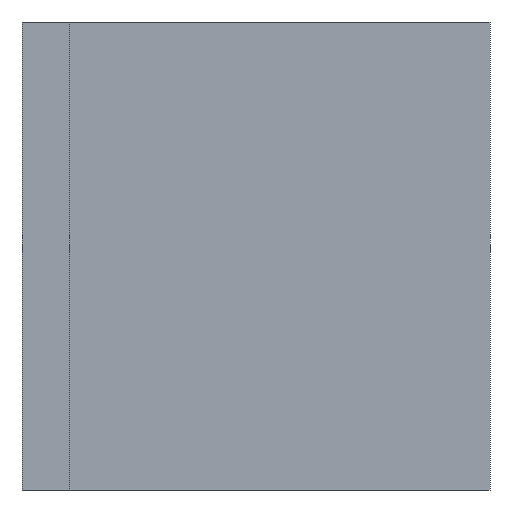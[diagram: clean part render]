
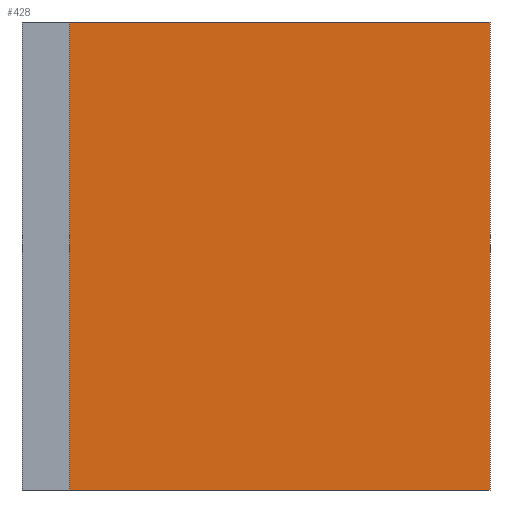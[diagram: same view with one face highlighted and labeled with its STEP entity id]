
A CAD part, front view. The second image highlights one B-rep face of the part: STEP entity #428.
In plain terms, the highlighted planar face has unit normal (0, -1, 0).
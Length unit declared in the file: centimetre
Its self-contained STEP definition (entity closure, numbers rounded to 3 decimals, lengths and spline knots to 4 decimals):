
#7 = VERTEX_POINT ( 'NONE', #198 ) ;
#14 = VERTEX_POINT ( 'NONE', #168 ) ;
#15 = AXIS2_PLACEMENT_3D ( 'NONE', #436, #159, #60 ) ;
#20 = LINE ( 'NONE', #68, #123 ) ;
#21 = ORIENTED_EDGE ( 'NONE', *, *, #22, .F. ) ;
#22 = EDGE_CURVE ( 'NONE', #26, #7, #264, .T. ) ;
#26 = VERTEX_POINT ( 'NONE', #137 ) ;
#60 = DIRECTION ( 'NONE',  ( 0., 0., 1. ) ) ;
#68 = CARTESIAN_POINT ( 'NONE',  ( 102.2926, 0., 0. ) ) ;
#87 = FACE_OUTER_BOUND ( 'NONE', #182, .T. ) ;
#93 = EDGE_CURVE ( 'NONE', #154, #14, #20, .T. ) ;
#94 = DIRECTION ( 'NONE',  ( 0., 0., 1. ) ) ;
#95 = CARTESIAN_POINT ( 'NONE',  ( 0., 0., 0. ) ) ;
#101 = DIRECTION ( 'NONE',  ( 0., 0., -1. ) ) ;
#123 = VECTOR ( 'NONE', #94, 100. ) ;
#130 = DIRECTION ( 'NONE',  ( 1., 0., 0. ) ) ;
#137 = CARTESIAN_POINT ( 'NONE',  ( 1000., 0., 1000. ) ) ;
#141 = ORIENTED_EDGE ( 'NONE', *, *, #384, .F. ) ;
#154 = VERTEX_POINT ( 'NONE', #284 ) ;
#159 = DIRECTION ( 'NONE',  ( 0., 1., 0. ) ) ;
#168 = CARTESIAN_POINT ( 'NONE',  ( 102.2926, 0., 1000. ) ) ;
#182 = EDGE_LOOP ( 'NONE', ( #141, #288, #401, #21 ) ) ;
#194 = DIRECTION ( 'NONE',  ( 1., 0., 0. ) ) ;
#198 = CARTESIAN_POINT ( 'NONE',  ( 1000., 0., 0. ) ) ;
#216 = PLANE ( 'NONE',  #15 ) ;
#264 = LINE ( 'NONE', #408, #358 ) ;
#284 = CARTESIAN_POINT ( 'NONE',  ( 102.2926, 0., 0. ) ) ;
#288 = ORIENTED_EDGE ( 'NONE', *, *, #93, .F. ) ;
#343 = EDGE_CURVE ( 'NONE', #154, #7, #433, .T. ) ;
#346 = CARTESIAN_POINT ( 'NONE',  ( 0., 0., 1000. ) ) ;
#358 = VECTOR ( 'NONE', #101, 100. ) ;
#384 = EDGE_CURVE ( 'NONE', #14, #26, #399, .T. ) ;
#393 = VECTOR ( 'NONE', #194, 100. ) ;
#399 = LINE ( 'NONE', #346, #393 ) ;
#401 = ORIENTED_EDGE ( 'NONE', *, *, #343, .T. ) ;
#408 = CARTESIAN_POINT ( 'NONE',  ( 1000., 0., 1000. ) ) ;
#428 = ADVANCED_FACE ( 'NONE', ( #87 ), #216, .F. ) ;
#432 = VECTOR ( 'NONE', #130, 100. ) ;
#433 = LINE ( 'NONE', #95, #432 ) ;
#436 = CARTESIAN_POINT ( 'NONE',  ( 0., 0., 1000. ) ) ;
